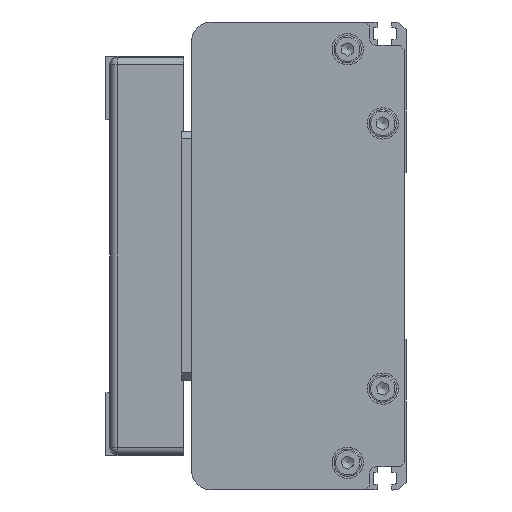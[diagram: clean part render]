
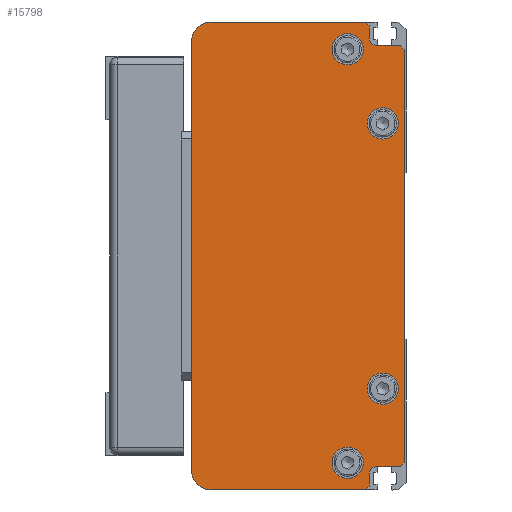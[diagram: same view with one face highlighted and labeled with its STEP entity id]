
A CAD part, left-side view. The second image highlights one B-rep face of the part: STEP entity #15798.
In plain terms, the highlighted planar face has unit normal (-1, 0, 0) as drawn and (0, 0, -1) by its records, which use the part's own axes.
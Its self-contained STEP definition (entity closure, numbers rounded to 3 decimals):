
#822=FACE_BOUND('',#2585,.T.);
#823=FACE_BOUND('',#2586,.T.);
#824=FACE_BOUND('',#2587,.T.);
#825=FACE_BOUND('',#2588,.T.);
#1132=CIRCLE('',#16922,5.);
#1133=CIRCLE('',#16924,5.);
#1134=CIRCLE('',#16925,2.);
#1135=CIRCLE('',#16926,2.);
#1136=CIRCLE('',#16927,4.);
#1137=CIRCLE('',#16928,4.);
#1138=CIRCLE('',#16929,4.);
#1139=CIRCLE('',#16930,4.);
#1560=FACE_OUTER_BOUND('',#2584,.T.);
#2584=EDGE_LOOP('',(#10870,#10871,#10872,#10873,#10874,#10875,#10876,#10877,
#10878,#10879,#10880,#10881,#10882,#10883,#10884,#10885));
#2585=EDGE_LOOP('',(#10886));
#2586=EDGE_LOOP('',(#10887));
#2587=EDGE_LOOP('',(#10888));
#2588=EDGE_LOOP('',(#10889));
#3825=LINE('',#22585,#5350);
#3826=LINE('',#22587,#5351);
#3827=LINE('',#22590,#5352);
#3828=LINE('',#22592,#5353);
#3829=LINE('',#22594,#5354);
#3830=LINE('',#22596,#5355);
#3831=LINE('',#22600,#5356);
#3832=LINE('',#22602,#5357);
#3833=LINE('',#22604,#5358);
#3834=LINE('',#22606,#5359);
#3835=LINE('',#22608,#5360);
#3836=LINE('',#22611,#5361);
#5350=VECTOR('',#18434,1.414);
#5351=VECTOR('',#18435,39.5);
#5352=VECTOR('',#18438,110.);
#5353=VECTOR('',#18439,39.5);
#5354=VECTOR('',#18440,1.414);
#5355=VECTOR('',#18441,3.);
#5356=VECTOR('',#18444,6.);
#5357=VECTOR('',#18445,1.414);
#5358=VECTOR('',#18446,106.);
#5359=VECTOR('',#18447,1.414);
#5360=VECTOR('',#18448,6.);
#5361=VECTOR('',#18451,3.);
#6905=VERTEX_POINT('',#22577);
#6906=VERTEX_POINT('',#22579);
#6907=VERTEX_POINT('',#22583);
#6908=VERTEX_POINT('',#22584);
#6909=VERTEX_POINT('',#22586);
#6910=VERTEX_POINT('',#22588);
#6911=VERTEX_POINT('',#22591);
#6912=VERTEX_POINT('',#22593);
#6913=VERTEX_POINT('',#22595);
#6914=VERTEX_POINT('',#22597);
#6915=VERTEX_POINT('',#22599);
#6916=VERTEX_POINT('',#22601);
#6917=VERTEX_POINT('',#22603);
#6918=VERTEX_POINT('',#22605);
#6919=VERTEX_POINT('',#22607);
#6920=VERTEX_POINT('',#22609);
#6921=VERTEX_POINT('',#22612);
#6922=VERTEX_POINT('',#22614);
#6923=VERTEX_POINT('',#22616);
#6924=VERTEX_POINT('',#22618);
#8487=EDGE_CURVE('',#6905,#6906,#1132,.T.);
#8489=EDGE_CURVE('',#6907,#6908,#3825,.T.);
#8490=EDGE_CURVE('',#6907,#6909,#3826,.T.);
#8491=EDGE_CURVE('',#6910,#6909,#1133,.T.);
#8492=EDGE_CURVE('',#6910,#6906,#3827,.T.);
#8493=EDGE_CURVE('',#6905,#6911,#3828,.T.);
#8494=EDGE_CURVE('',#6912,#6911,#3829,.T.);
#8495=EDGE_CURVE('',#6912,#6913,#3830,.T.);
#8496=EDGE_CURVE('',#6913,#6914,#1134,.T.);
#8497=EDGE_CURVE('',#6914,#6915,#3831,.T.);
#8498=EDGE_CURVE('',#6916,#6915,#3832,.T.);
#8499=EDGE_CURVE('',#6916,#6917,#3833,.T.);
#8500=EDGE_CURVE('',#6918,#6917,#3834,.T.);
#8501=EDGE_CURVE('',#6918,#6919,#3835,.T.);
#8502=EDGE_CURVE('',#6919,#6920,#1135,.T.);
#8503=EDGE_CURVE('',#6920,#6908,#3836,.T.);
#8504=EDGE_CURVE('',#6921,#6921,#1136,.T.);
#8505=EDGE_CURVE('',#6922,#6922,#1137,.T.);
#8506=EDGE_CURVE('',#6923,#6923,#1138,.T.);
#8507=EDGE_CURVE('',#6924,#6924,#1139,.T.);
#10870=ORIENTED_EDGE('',*,*,#8489,.F.);
#10871=ORIENTED_EDGE('',*,*,#8490,.T.);
#10872=ORIENTED_EDGE('',*,*,#8491,.F.);
#10873=ORIENTED_EDGE('',*,*,#8492,.T.);
#10874=ORIENTED_EDGE('',*,*,#8487,.F.);
#10875=ORIENTED_EDGE('',*,*,#8493,.T.);
#10876=ORIENTED_EDGE('',*,*,#8494,.F.);
#10877=ORIENTED_EDGE('',*,*,#8495,.T.);
#10878=ORIENTED_EDGE('',*,*,#8496,.T.);
#10879=ORIENTED_EDGE('',*,*,#8497,.T.);
#10880=ORIENTED_EDGE('',*,*,#8498,.F.);
#10881=ORIENTED_EDGE('',*,*,#8499,.T.);
#10882=ORIENTED_EDGE('',*,*,#8500,.F.);
#10883=ORIENTED_EDGE('',*,*,#8501,.T.);
#10884=ORIENTED_EDGE('',*,*,#8502,.T.);
#10885=ORIENTED_EDGE('',*,*,#8503,.T.);
#10886=ORIENTED_EDGE('',*,*,#8504,.T.);
#10887=ORIENTED_EDGE('',*,*,#8505,.T.);
#10888=ORIENTED_EDGE('',*,*,#8506,.T.);
#10889=ORIENTED_EDGE('',*,*,#8507,.T.);
#15178=PLANE('',#16923);
#15798=ADVANCED_FACE('',(#1560,#822,#823,#824,#825),#15178,.F.);
#16922=AXIS2_PLACEMENT_3D('',#22580,#18429,#18430);
#16923=AXIS2_PLACEMENT_3D('',#22582,#18432,#18433);
#16924=AXIS2_PLACEMENT_3D('',#22589,#18436,#18437);
#16925=AXIS2_PLACEMENT_3D('',#22598,#18442,#18443);
#16926=AXIS2_PLACEMENT_3D('',#22610,#18449,#18450);
#16927=AXIS2_PLACEMENT_3D('',#22613,#18452,#18453);
#16928=AXIS2_PLACEMENT_3D('',#22615,#18454,#18455);
#16929=AXIS2_PLACEMENT_3D('',#22617,#18456,#18457);
#16930=AXIS2_PLACEMENT_3D('',#22619,#18458,#18459);
#18429=DIRECTION('center_axis',(0.,0.,
1.));
#18430=DIRECTION('ref_axis',(0.707,0.707,0.));
#18432=DIRECTION('center_axis',(0.,0.,
1.));
#18433=DIRECTION('ref_axis',(-1.,-0.018,0.));
#18434=DIRECTION('',(0.707,-0.707,0.));
#18435=DIRECTION('',(0.,1.,0.));
#18436=DIRECTION('center_axis',(0.,0.,
1.));
#18437=DIRECTION('ref_axis',(-0.707,0.707,0.));
#18438=DIRECTION('',(1.,0.,0.));
#18439=DIRECTION('',(0.,-1.,0.));
#18440=DIRECTION('',(0.707,0.707,0.));
#18441=DIRECTION('',(-1.,0.,0.));
#18442=DIRECTION('center_axis',(0.,0.,
1.));
#18443=DIRECTION('ref_axis',(0.,-1.,0.));
#18444=DIRECTION('',(0.,-1.,0.));
#18445=DIRECTION('',(0.707,0.707,0.));
#18446=DIRECTION('',(-1.,0.,0.));
#18447=DIRECTION('',(0.707,-0.707,0.));
#18448=DIRECTION('',(0.,1.,0.));
#18449=DIRECTION('center_axis',(0.,0.,
1.));
#18450=DIRECTION('ref_axis',(1.,0.,0.));
#18451=DIRECTION('',(-1.,0.,0.));
#18452=DIRECTION('center_axis',(0.,0.,
1.));
#18453=DIRECTION('ref_axis',(0.,1.,0.));
#18454=DIRECTION('center_axis',(0.,0.,
1.));
#18455=DIRECTION('ref_axis',(0.,1.,0.));
#18456=DIRECTION('center_axis',(0.,0.,
1.));
#18457=DIRECTION('ref_axis',(0.,1.,0.));
#18458=DIRECTION('center_axis',(0.,0.,
1.));
#18459=DIRECTION('ref_axis',(0.,1.,0.));
#22577=CARTESIAN_POINT('',(124.75,50.75,-692.5));
#22579=CARTESIAN_POINT('',(119.75,55.75,-692.5));
#22580=CARTESIAN_POINT('Origin',(119.75,50.75,-692.5));
#22582=CARTESIAN_POINT('Origin',(64.75,28.5,-692.5));
#22583=CARTESIAN_POINT('',(4.75,11.25,-692.5));
#22584=CARTESIAN_POINT('',(5.75,10.25,-692.5));
#22585=CARTESIAN_POINT('',(4.75,11.25,-692.5));
#22586=CARTESIAN_POINT('',(4.75,50.75,-692.5));
#22587=CARTESIAN_POINT('',(4.75,11.25,-692.5));
#22588=CARTESIAN_POINT('',(9.75,55.75,-692.5));
#22589=CARTESIAN_POINT('Origin',(9.75,50.75,-692.5));
#22590=CARTESIAN_POINT('',(9.75,55.75,-692.5));
#22591=CARTESIAN_POINT('',(124.75,11.25,-692.5));
#22592=CARTESIAN_POINT('',(124.75,50.75,-692.5));
#22593=CARTESIAN_POINT('',(123.75,10.25,-692.5));
#22594=CARTESIAN_POINT('',(123.75,10.25,-692.5));
#22595=CARTESIAN_POINT('',(120.75,10.25,-692.5));
#22596=CARTESIAN_POINT('',(123.75,10.25,-692.5));
#22597=CARTESIAN_POINT('',(118.75,8.25,-692.5));
#22598=CARTESIAN_POINT('Origin',(120.75,8.25,-692.5));
#22599=CARTESIAN_POINT('',(118.75,2.25,-692.5));
#22600=CARTESIAN_POINT('',(118.75,8.25,-692.5));
#22601=CARTESIAN_POINT('',(117.75,1.25,-692.5));
#22602=CARTESIAN_POINT('',(117.75,1.25,-692.5));
#22603=CARTESIAN_POINT('',(11.75,1.25,-692.5));
#22604=CARTESIAN_POINT('',(117.75,1.25,-692.5));
#22605=CARTESIAN_POINT('',(10.75,2.25,-692.5));
#22606=CARTESIAN_POINT('',(10.75,2.25,-692.5));
#22607=CARTESIAN_POINT('',(10.75,8.25,-692.5));
#22608=CARTESIAN_POINT('',(10.75,2.25,-692.5));
#22609=CARTESIAN_POINT('',(8.75,10.25,-692.5));
#22610=CARTESIAN_POINT('Origin',(8.75,8.25,-692.5));
#22611=CARTESIAN_POINT('',(8.75,10.25,-692.5));
#22612=CARTESIAN_POINT('',(30.75,10.75,-692.5));
#22613=CARTESIAN_POINT('Origin',(30.75,6.75,-692.5));
#22614=CARTESIAN_POINT('',(98.75,10.75,-692.5));
#22615=CARTESIAN_POINT('Origin',(98.75,6.75,-692.5));
#22616=CARTESIAN_POINT('',(11.75,19.75,-692.5));
#22617=CARTESIAN_POINT('Origin',(11.75,15.75,-692.5));
#22618=CARTESIAN_POINT('',(117.75,19.75,-692.5));
#22619=CARTESIAN_POINT('Origin',(117.75,15.75,-692.5));
